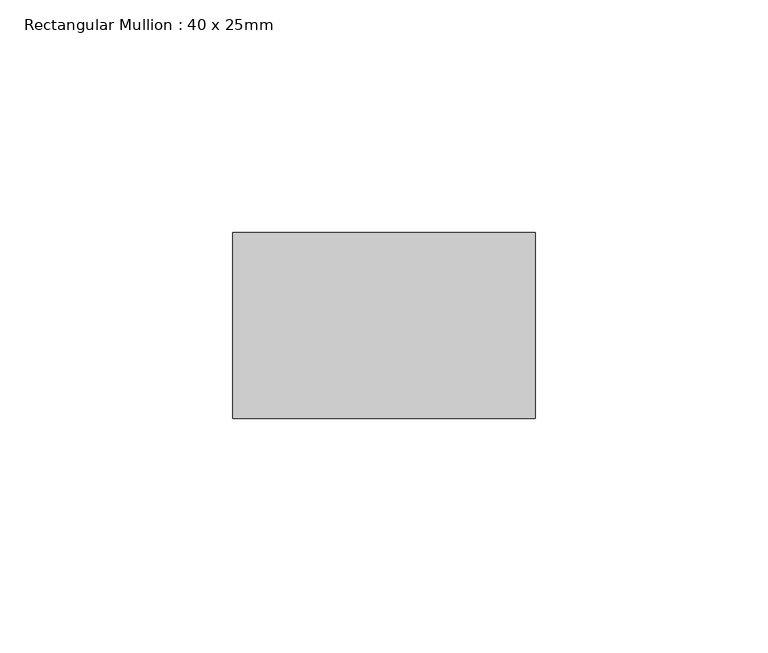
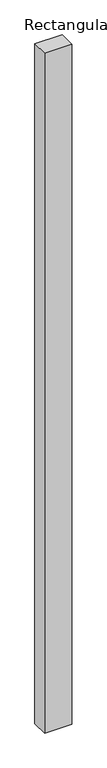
"""IFC4 building model written with IfcOpenShell, lengths in millimetres: member geometry, Rectangular Mullion : 40 x 25mm."""

from ifc_helpers import new_model, si_unit, frame, origin, place, context, project, spatial, polyline, outline, extrude, source, transform, mapped, element, save


def rectangular_mullion_40_x_25mm_7c6cd037(model_context):
    return source(origin(), model_context, "Body", "SweptSolid", [
        extrude(outline(polyline([(0.0, -20.0), (0.0, -60.0), (-65.0, -60.0), (-65.0, -20.0), (0.0, -20.0)])), frame((0.0, 0.0, -1722.7), z_axis=(0.0, 0.0, 1.0), x_axis=(1.0, 0.0, 0.0)), (0.0, 0.0, 1.0), 1722.7),
    ])


if __name__ == "__main__":
    model = new_model("IFC4")
    model_context = context("Model", 3, world=origin())
    ifc_project = project(units=[si_unit("LENGTHUNIT", "METRE", prefix="MILLI")], contexts=[model_context])
    site = spatial("IfcSite", under=ifc_project)
    building = spatial("IfcBuilding", under=site)
    placement = place(None, origin())
    rectangular_mullion_40_x_25mm_shape = rectangular_mullion_40_x_25mm_7c6cd037(model_context)
    element("IfcMember", 1, ObjectType="Rectangular Mullion : 40 x 25mm", at=placement, inside=building, context=model_context, shape_type="MappedRepresentation", body=[
        mapped(rectangular_mullion_40_x_25mm_shape, transform((0.0, 0.0, 0.0), x_axis=(1.0, 0.0, 0.0), y_axis=(0.0, 1.0, 0.0), z_axis=(0.0, 0.0, 1.0))),
    ])
    save(model, "model.ifc")
